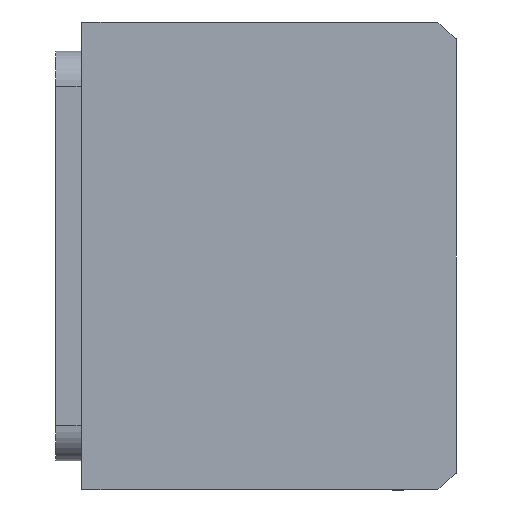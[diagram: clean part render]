
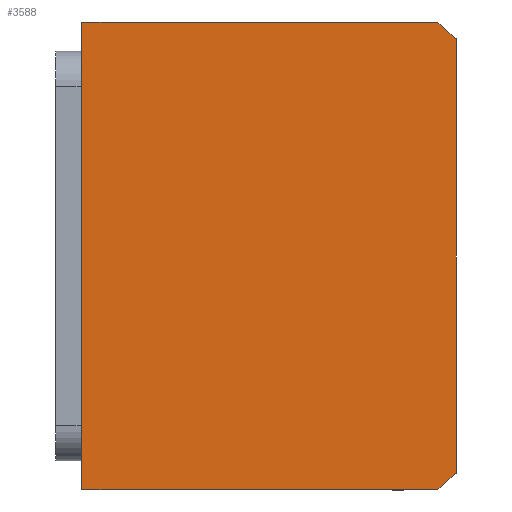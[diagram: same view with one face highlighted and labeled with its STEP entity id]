
A CAD part, front view. The second image highlights one B-rep face of the part: STEP entity #3588.
In plain terms, the highlighted planar face has unit normal (0, -1, 0) as drawn and (0, 0, -1) by its records, which use the part's own axes.
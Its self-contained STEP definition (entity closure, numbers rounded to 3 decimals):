
#256 = CARTESIAN_POINT ( 'NONE',  ( 37.094, -32., 0. ) ) ;
#574 = CARTESIAN_POINT ( 'NONE',  ( 0., 0., 0. ) ) ;
#688 = ORIENTED_EDGE ( 'NONE', *, *, #8106, .F. ) ;
#1297 = CARTESIAN_POINT ( 'NONE',  ( 40., 32., 0. ) ) ;
#1545 = VECTOR ( 'NONE', #11021, 1000. ) ;
#1615 = DIRECTION ( 'NONE',  ( 0., 1., 0. ) ) ;
#1783 = ORIENTED_EDGE ( 'NONE', *, *, #3780, .F. ) ;
#1793 = PLANE ( 'NONE',  #10436 ) ;
#2137 = CARTESIAN_POINT ( 'NONE',  ( 40., -28.639, 0. ) ) ;
#2268 = VERTEX_POINT ( 'NONE', #11092 ) ;
#2873 = DIRECTION ( 'NONE',  ( 1., 0., 0. ) ) ;
#2988 = LINE ( 'NONE', #7214, #11246 ) ;
#2996 = CARTESIAN_POINT ( 'NONE',  ( -40., 32., 0. ) ) ;
#3523 = EDGE_CURVE ( 'NONE', #12942, #4954, #10312, .T. ) ;
#3539 = ORIENTED_EDGE ( 'NONE', *, *, #8429, .F. ) ;
#3588 = ADVANCED_FACE ( 'NONE', ( #3895 ), #1793, .F. ) ;
#3780 = EDGE_CURVE ( 'NONE', #8706, #2268, #6113, .T. ) ;
#3895 = FACE_OUTER_BOUND ( 'NONE', #9312, .T. ) ;
#4230 = EDGE_CURVE ( 'NONE', #7664, #12942, #10138, .T. ) ;
#4547 = CARTESIAN_POINT ( 'NONE',  ( 0., 3., 0. ) ) ;
#4737 = LINE ( 'NONE', #9930, #1545 ) ;
#4954 = VERTEX_POINT ( 'NONE', #1297 ) ;
#5013 = EDGE_CURVE ( 'NONE', #5977, #7664, #4737, .T. ) ;
#5421 = CARTESIAN_POINT ( 'NONE',  ( -40., 32., 0. ) ) ;
#5637 = DIRECTION ( 'NONE',  ( 1., 0., 0. ) ) ;
#5843 = ORIENTED_EDGE ( 'NONE', *, *, #5013, .F. ) ;
#5977 = VERTEX_POINT ( 'NONE', #12438 ) ;
#6113 = LINE ( 'NONE', #2996, #11474 ) ;
#6123 = DIRECTION ( 'NONE',  ( -1., 0., 0. ) ) ;
#6215 = DIRECTION ( 'NONE',  ( 0., -1., 0. ) ) ;
#6277 = DIRECTION ( 'NONE',  ( 0., 0., 1. ) ) ;
#6723 = ORIENTED_EDGE ( 'NONE', *, *, #4230, .F. ) ;
#7214 = CARTESIAN_POINT ( 'NONE',  ( -40., 32., 0. ) ) ;
#7664 = VERTEX_POINT ( 'NONE', #256 ) ;
#7887 = CIRCLE ( 'NONE', #9987, 51. ) ;
#8106 = EDGE_CURVE ( 'NONE', #2268, #5977, #7887, .T. ) ;
#8209 = AXIS2_PLACEMENT_3D ( 'NONE', #12690, #6277, #13769 ) ;
#8429 = EDGE_CURVE ( 'NONE', #4954, #8706, #2988, .T. ) ;
#8706 = VERTEX_POINT ( 'NONE', #5421 ) ;
#9122 = CARTESIAN_POINT ( 'NONE',  ( 40., 32., 0. ) ) ;
#9285 = DIRECTION ( 'NONE',  ( 0., 0., 1. ) ) ;
#9312 = EDGE_LOOP ( 'NONE', ( #688, #1783, #3539, #9424, #6723, #5843 ) ) ;
#9424 = ORIENTED_EDGE ( 'NONE', *, *, #3523, .F. ) ;
#9930 = CARTESIAN_POINT ( 'NONE',  ( -40., -32., 0. ) ) ;
#9939 = VECTOR ( 'NONE', #1615, 1000. ) ;
#9987 = AXIS2_PLACEMENT_3D ( 'NONE', #4547, #12051, #5637 ) ;
#10138 = CIRCLE ( 'NONE', #8209, 51. ) ;
#10312 = LINE ( 'NONE', #9122, #9939 ) ;
#10436 = AXIS2_PLACEMENT_3D ( 'NONE', #574, #9285, #2873 ) ;
#11021 = DIRECTION ( 'NONE',  ( 1., 0., 0. ) ) ;
#11092 = CARTESIAN_POINT ( 'NONE',  ( -40., -28.639, 0. ) ) ;
#11246 = VECTOR ( 'NONE', #6123, 1000. ) ;
#11474 = VECTOR ( 'NONE', #6215, 1000. ) ;
#12051 = DIRECTION ( 'NONE',  ( 0., 0., 1. ) ) ;
#12438 = CARTESIAN_POINT ( 'NONE',  ( -37.094, -32., 0. ) ) ;
#12690 = CARTESIAN_POINT ( 'NONE',  ( 0., 3., 0. ) ) ;
#12942 = VERTEX_POINT ( 'NONE', #2137 ) ;
#13769 = DIRECTION ( 'NONE',  ( 1., 0., 0. ) ) ;
